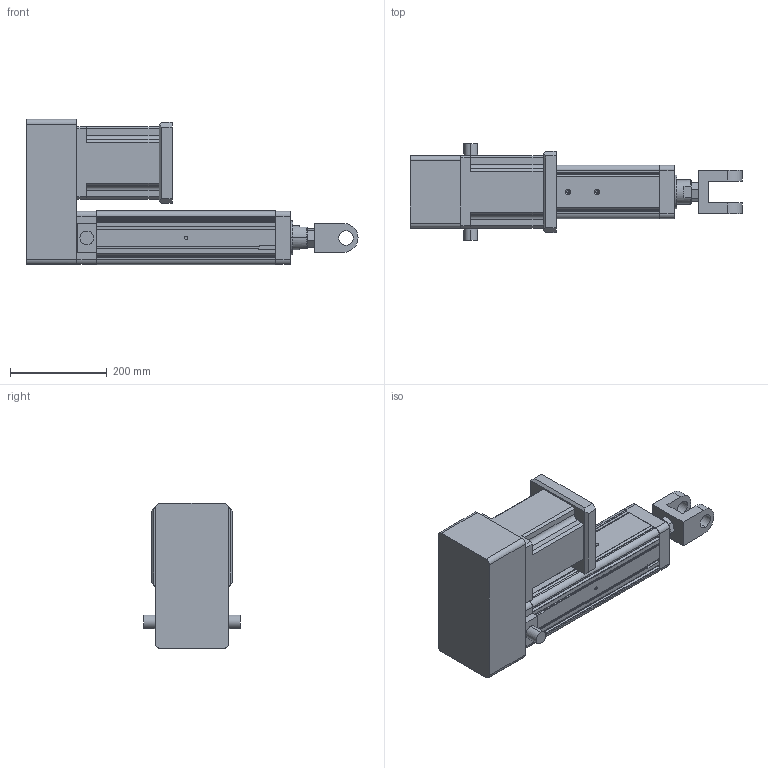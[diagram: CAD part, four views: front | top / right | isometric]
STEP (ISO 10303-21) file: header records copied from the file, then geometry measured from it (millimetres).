
FILE_DESCRIPTION (( 'STEP AP203' ), '1' );
FILE_NAME ('YRJ110-L200-H4K4.STEP', '2020-01-06T01:29:25', ( 'User' ), ( 'China' ), 'SwSTEP 2.0', 'SolidWorks 2016', '' );
FILE_SCHEMA (( 'CONFIG_CONTROL_DESIGN' ));
Length unit declared in the file: millimetre
Products named in the file (7): H5-110-2; K4-110; YRJ110-L200-H4K4; 萇儂碟-110; 095-100俴最倰第; 142熬厒儂; H5-110-1
Assembly tree (6 placements, depth 2):
  YRJ110-L200-H4K4
    095-100俴最倰第
    142熬厒儂
    H5-110-1
    H5-110-2
    萇儂碟-110
    K4-110
Bounding box: 686 x 200 x 300.5 mm (x, y, z)
Volume: 11622296 mm3; surface area: 851839.6 mm2
Topology: 6 solids, 6 shells, 331 faces, 904 edges, 585 vertices
Faces by surface type: plane 188, cylinder 116, cone 27
Entity records: 11430 total; most frequent: CARTESIAN_POINT 2153, DIRECTION 1793, ORIENTED_EDGE 1776, EDGE_CURVE 888, VECTOR 619, LINE 619, AXIS2_PLACEMENT_3D 587, VERTEX_POINT 585
